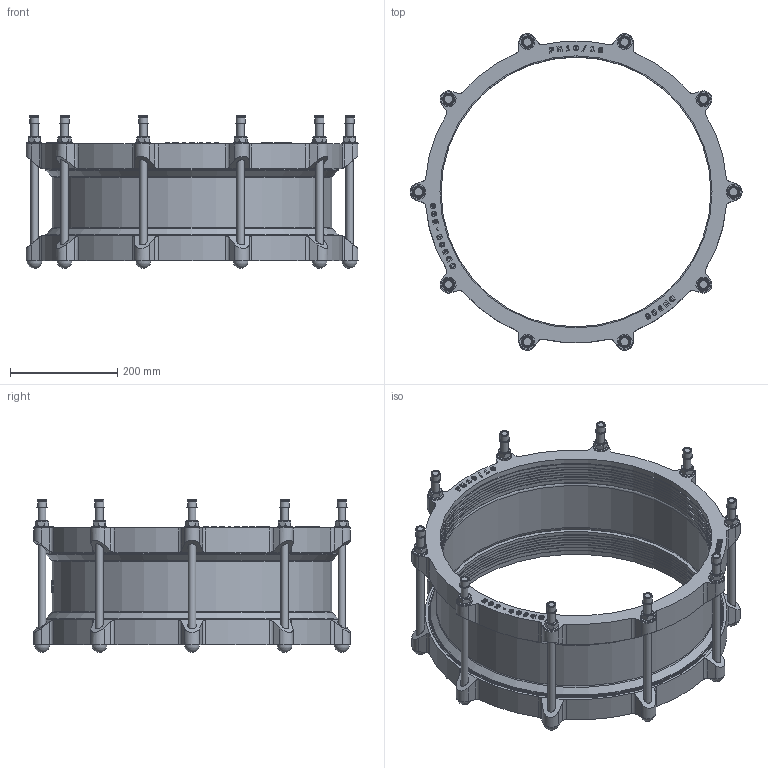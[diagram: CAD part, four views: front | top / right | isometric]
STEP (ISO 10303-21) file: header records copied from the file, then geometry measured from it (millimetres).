
FILE_DESCRIPTION(('STEP AP203'), '1');
FILE_NAME('Cîåäèíèòåëüíàÿ ìóôòà äëÿ æåñòêèõ òðóá', '', ('UNSPECIFIED'), ('UNSPECIFIED'), 'C3D Converter', 'C3D Toolkit', '');
FILE_SCHEMA(('CONFIG_CONTROL_DESIGN'));
Length unit declared in the file: millimetre
Assembly tree (45 placements, depth 2):
  (unnamed)
    (unnamed)
    (unnamed)  x10
    (unnamed)  x10
    (unnamed)  x10
    (unnamed)  x10
    (unnamed)
    (unnamed)
    (unnamed)  x2
Bounding box: 620 x 591.18 x 285.4 mm (x, y, z)
Volume: 7225912.1 mm3; surface area: 1704706.1 mm2
Topology: 49 solids, 49 shells, 1099 faces, 2683 edges, 1754 vertices
Faces by surface type: plane 390, extrusion 388, cylinder 207, cone 76, torus 28, sphere 10
Full cylindrical faces by diameter (mm): 14 x30, 15 x10, 16 x20, 16.8 x10, 19.6 x10, 25.619 x1, 28 x10, 504 x8, 506 x6, 508 x3, 515 x2, 522 x3, 546.5 x2, 550 x4
Entity records: 39695 total; most frequent: CARTESIAN_POINT 15642, ORIENTED_EDGE 4138, DIRECTION 2699, EDGE_CURVE 2069, VERTEX_POINT 1408, B_SPLINE_CURVE_WITH_KNOTS 1297, VECTOR 1269, EDGE_LOOP 995
